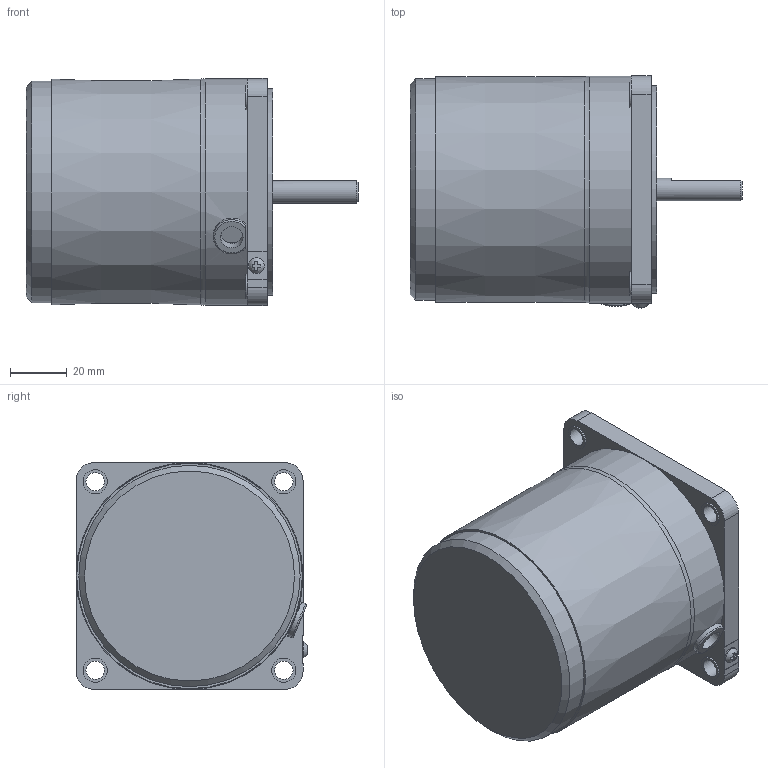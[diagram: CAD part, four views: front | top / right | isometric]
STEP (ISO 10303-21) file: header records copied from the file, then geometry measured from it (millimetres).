
FILE_DESCRIPTION(/* description */ (''),/* implementation_level */ '2;1');
FILE_NAME(/* name */ 'E:\도면작업\2016\0704) 미주향 SG 도면\3D MOTOR\SG8I25D_.stp',/* time_stamp */ '2016-07-22T13:45:07+09:00',/* author */ ('jy-jung'),/* organization */ (''),/* preprocessor_version */ 'ST-DEVELOPER v15.6',/* originating_system */ 'Autodesk Inventor 2015',/* authorisation */ '');
FILE_SCHEMA (('AUTOMOTIVE_DESIGN { 1 0 10303 214 3 1 1 }'));
Length unit declared in the file: millimetre
Products named in the file (1): 부품1
Bounding box: 117 x 81.76 x 80 mm (x, y, z)
Volume: 427738.9 mm3; surface area: 37496.3 mm2
Topology: 1 solids, 2 shells, 103 faces, 250 edges, 165 vertices
Faces by surface type: plane 65, cylinder 32, cone 3, torus 2, bspline 1
Full cylindrical faces by diameter (mm): 5.6 x1, 6.5 x4, 8 x2, 8.5 x4, 34 x1, 73 x1, 78 x1, 80 x1
Entity records: 3188 total; most frequent: CARTESIAN_POINT 649, DIRECTION 496, ORIENTED_EDGE 462, EDGE_CURVE 231, AXIS2_PLACEMENT_3D 183, VERTEX_POINT 164, EDGE_LOOP 143, LINE 130
